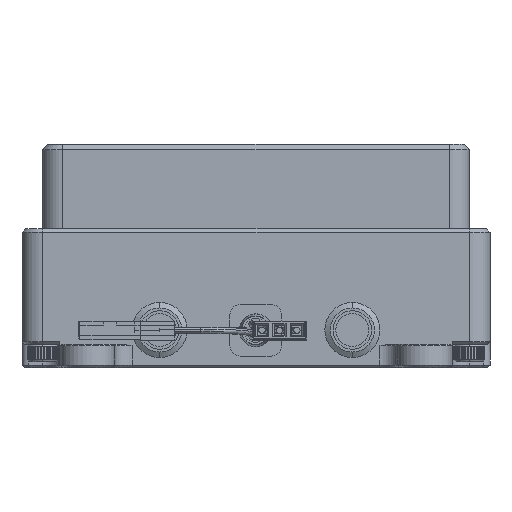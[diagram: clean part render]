
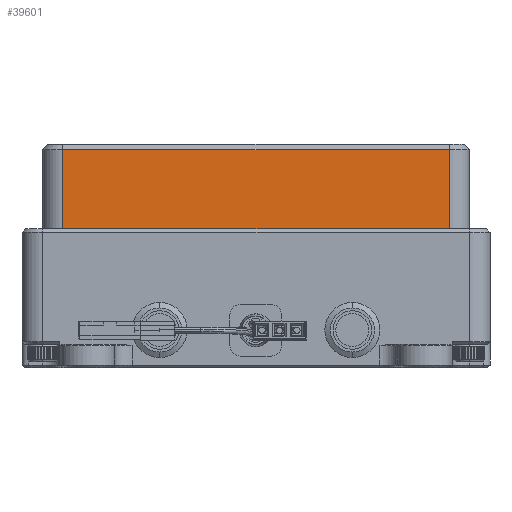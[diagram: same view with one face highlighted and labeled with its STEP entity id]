
A CAD part, left-side view. The second image highlights one B-rep face of the part: STEP entity #39601.
In plain terms, the highlighted planar face has unit normal (-1, 0, 0).
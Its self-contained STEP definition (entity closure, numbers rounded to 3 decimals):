
#4349=DIRECTION('',(0.,-1.,0.));
#4350=VECTOR('',#4349,56.1);
#4351=CARTESIAN_POINT('',(-58.5,28.05,14.7));
#4352=LINE('',#4351,#4350);
#7304=DIRECTION('',(0.,-1.,0.));
#7305=VECTOR('',#7304,56.1);
#7306=CARTESIAN_POINT('',(-58.5,28.05,26.2));
#7307=LINE('',#7306,#7305);
#7308=DIRECTION('',(0.,0.,-1.));
#7309=VECTOR('',#7308,11.5);
#7310=CARTESIAN_POINT('',(-58.5,-28.05,
26.2));
#7311=LINE('',#7310,#7309);
#7312=DIRECTION('',(0.,0.,-1.));
#7313=VECTOR('',#7312,11.5);
#7314=CARTESIAN_POINT('',(-58.5,28.05,26.2));
#7315=LINE('',#7314,#7313);
#25459=CARTESIAN_POINT('',(-58.5,28.05,14.7));
#25460=CARTESIAN_POINT('',(-58.5,-28.05,14.7));
#25461=VERTEX_POINT('',#25459);
#25462=VERTEX_POINT('',#25460);
#25491=CARTESIAN_POINT('',(-58.5,-28.05,26.2));
#25493=VERTEX_POINT('',#25491);
#25497=CARTESIAN_POINT('',(-58.5,28.05,
26.2));
#25498=VERTEX_POINT('',#25497);
#39589=CARTESIAN_POINT('',(-58.5,31.05,14.7));
#39590=DIRECTION('',(-1.,0.,0.));
#39591=DIRECTION('',(0.,-1.,0.));
#39592=AXIS2_PLACEMENT_3D('',#39589,#39590,#39591);
#39593=PLANE('',#39592);
#39594=ORIENTED_EDGE('',*,*,#39403,.T.);
#39595=ORIENTED_EDGE('',*,*,#39584,.T.);
#39596=ORIENTED_EDGE('',*,*,#35434,.F.);
#39598=ORIENTED_EDGE('',*,*,#39597,.F.);
#39599=EDGE_LOOP('',(#39594,#39595,#39596,#39598));
#39600=FACE_OUTER_BOUND('',#39599,.F.);
#39601=ADVANCED_FACE('',(#39600),#39593,.T.);
#35434=EDGE_CURVE('',#25461,#25462,#4352,.T.);
#39403=EDGE_CURVE('',#25498,#25493,#7307,.T.);
#39584=EDGE_CURVE('',#25493,#25462,#7311,.T.);
#39597=EDGE_CURVE('',#25498,#25461,#7315,.T.);
